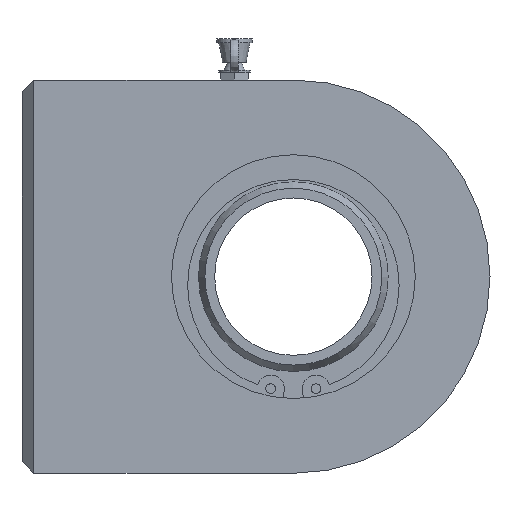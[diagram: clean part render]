
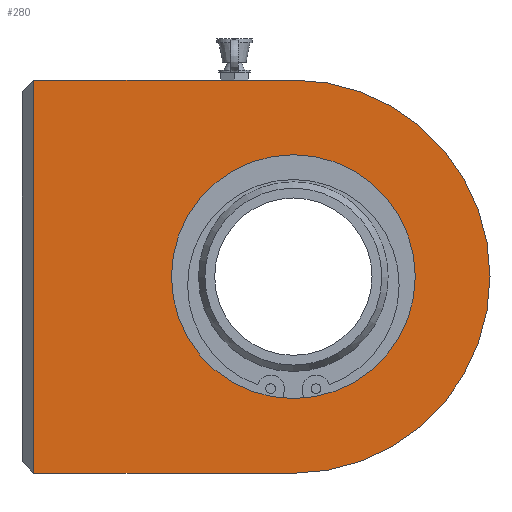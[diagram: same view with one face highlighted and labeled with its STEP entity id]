
A CAD part, front view. The second image highlights one B-rep face of the part: STEP entity #280.
In plain terms, the highlighted planar face has unit normal (0, -1, 0).
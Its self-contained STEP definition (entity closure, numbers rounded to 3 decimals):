
#280 = ADVANCED_FACE( '', ( #554, #555 ), #556, .F. );
#554 = FACE_BOUND( '', #915, .T. );
#555 = FACE_OUTER_BOUND( '', #916, .T. );
#556 = PLANE( '', #917 );
#915 = EDGE_LOOP( '', ( #1940 ) );
#916 = EDGE_LOOP( '', ( #1941, #1942, #1943, #1944 ) );
#917 = AXIS2_PLACEMENT_3D( '', #1945, #1946, #1947 );
#1940 = ORIENTED_EDGE( '', *, *, #2509, .T. );
#1941 = ORIENTED_EDGE( '', *, *, #2462, .T. );
#1942 = ORIENTED_EDGE( '', *, *, #2499, .T. );
#1943 = ORIENTED_EDGE( '', *, *, #2510, .F. );
#1944 = ORIENTED_EDGE( '', *, *, #2449, .T. );
#1945 = CARTESIAN_POINT( '', ( 119., -17.5, 50. ) );
#1946 = DIRECTION( '', ( 0., 1., 0. ) );
#1947 = DIRECTION( '', ( 0., 0., 1. ) );
#2449 = EDGE_CURVE( '', #2683, #2681, #2684, .F. );
#2462 = EDGE_CURVE( '', #2681, #2703, #2705, .T. );
#2499 = EDGE_CURVE( '', #2703, #2768, #2770, .T. );
#2509 = EDGE_CURVE( '', #2785, #2785, #2786, .T. );
#2510 = EDGE_CURVE( '', #2683, #2768, #2787, .T. );
#2681 = VERTEX_POINT( '', #3019 );
#2683 = VERTEX_POINT( '', #3022 );
#2684 = CIRCLE( '', #3023, 50. );
#2703 = VERTEX_POINT( '', #3046 );
#2705 = LINE( '', #3049, #3050 );
#2768 = VERTEX_POINT( '', #3223 );
#2770 = LINE( '', #3226, #3227 );
#2785 = VERTEX_POINT( '', #3280 );
#2786 = CIRCLE( '', #3281, 31. );
#2787 = LINE( '', #3282, #3283 );
#3019 = CARTESIAN_POINT( '', ( 69., -17.5, 50. ) );
#3022 = CARTESIAN_POINT( '', ( 69., -17.5, -50. ) );
#3023 = AXIS2_PLACEMENT_3D( '', #3655, #3656, #3657 );
#3046 = CARTESIAN_POINT( '', ( 3., -17.5, 50. ) );
#3049 = CARTESIAN_POINT( '', ( 119., -17.5, 50. ) );
#3050 = VECTOR( '', #3675, 1000. );
#3223 = CARTESIAN_POINT( '', ( 3., -17.5, -50. ) );
#3226 = CARTESIAN_POINT( '', ( 3., -17.5, 50. ) );
#3227 = VECTOR( '', #3732, 1000. );
#3280 = CARTESIAN_POINT( '', ( 69., -17.5, 31. ) );
#3281 = AXIS2_PLACEMENT_3D( '', #3743, #3744, #3745 );
#3282 = CARTESIAN_POINT( '', ( 119., -17.5, -50. ) );
#3283 = VECTOR( '', #3746, 1000. );
#3655 = CARTESIAN_POINT( '', ( 69., -17.5, 0. ) );
#3656 = DIRECTION( '', ( 0., 1., 0. ) );
#3657 = DIRECTION( '', ( 0., 0., 1. ) );
#3675 = DIRECTION( '', ( -1., 0., 0. ) );
#3732 = DIRECTION( '', ( 0., 0., -1. ) );
#3743 = CARTESIAN_POINT( '', ( 69., -17.5, 0. ) );
#3744 = DIRECTION( '', ( 0., 1., 0. ) );
#3745 = DIRECTION( '', ( 0., 0., 1. ) );
#3746 = DIRECTION( '', ( -1., 0., 0. ) );
